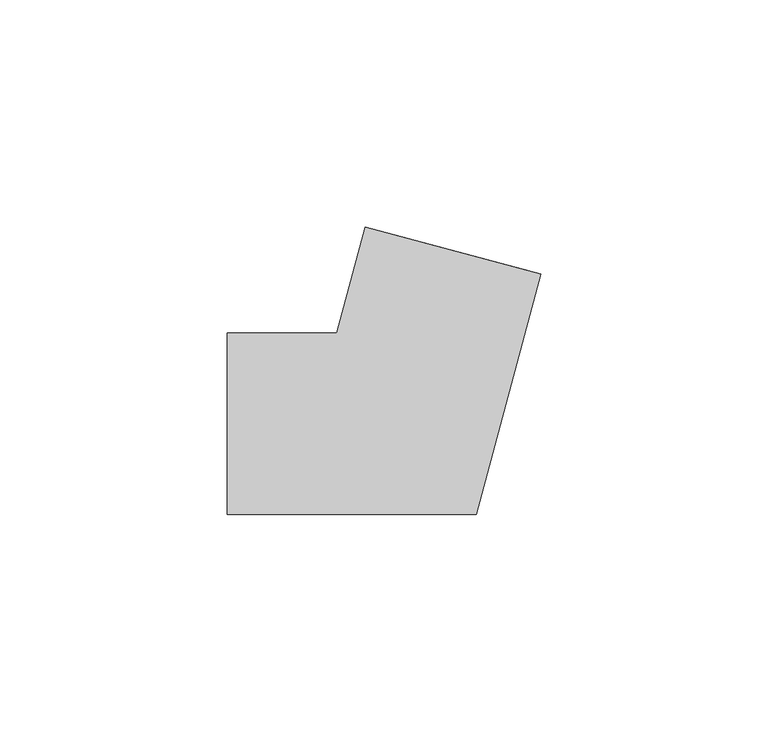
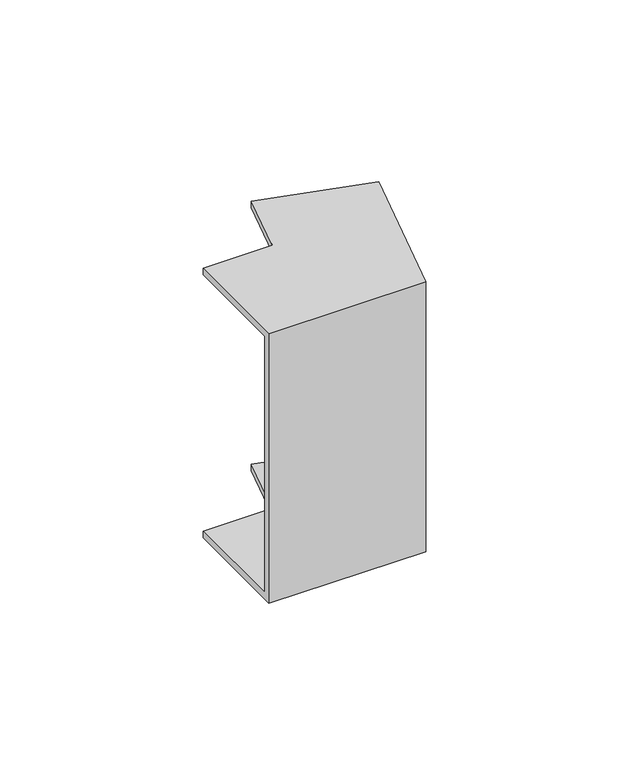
"""IFC4 building model written with IfcOpenShell, lengths in millimetres: cable carrier fitting geometry, КНС_УголВнутренний_ILC_DKC : Угол внутренний_DKC."""

from ifc_helpers import new_model, si_unit, origin, place, context, project, spatial, faceted_brep, source, transform, mapped, element, save


def cable_carrier_fitting_9e77377e(model_context):
    return source(origin(), model_context, "Body", "Brep", [
        faceted_brep([(-39.5297145, -20.0, 50.0), (-39.5297145, 20.0, 50.0), (-39.5297145, 20.0, 47.5), (-39.5297145, -17.5, 47.5), (-39.5297145, -17.5, -47.5), (-39.5297145, 20.0, -47.5), (-39.5297145, 20.0, -50.0), (-39.5297145, -20.0, -50.0), (29.5495595, 33.0063912, 50.0), (29.5495595, 33.0063912, -50.0), (-9.0874736, 43.359153, -50.0), (-9.0874736, 43.359153, -47.5), (27.1347449, 33.6534388, -47.5), (27.1347449, 33.6534388, 47.5), (-9.0874736, 43.359153, 47.5), (-9.0874736, 43.359153, 50.0), (15.3465398, -20.0, 50.0), (-15.3465398, 20.0, 50.0), (-15.3465398, 20.0, 47.5), (13.4282223, -17.5, 47.5), (13.4282223, -17.5, -47.5), (-15.3465398, 20.0, -47.5), (-15.3465398, 20.0, -50.0), (15.3465398, -20.0, -50.0)], [[[0, 1, 2, 3, 4, 5, 6, 7]], [[8, 9, 10, 11, 12, 13, 14, 15]], [[1, 0, 16, 8, 15, 17]], [[2, 1, 17, 18]], [[3, 2, 18, 14, 13, 19]], [[4, 3, 19, 20]], [[5, 4, 20, 12, 11, 21]], [[6, 5, 21, 22]], [[7, 6, 22, 10, 9, 23]], [[0, 7, 23, 16]], [[18, 17, 15, 14]], [[20, 19, 13, 12]], [[22, 21, 11, 10]], [[16, 23, 9, 8]]]),
    ])


if __name__ == "__main__":
    model = new_model("IFC4")
    model_context = context("Model", 3, world=origin())
    ifc_project = project(units=[si_unit("LENGTHUNIT", "METRE", prefix="MILLI")], contexts=[model_context])
    site = spatial("IfcSite", under=ifc_project)
    building = spatial("IfcBuilding", under=site)
    placement = place(None, origin())
    cable_carrier_fitting_shape = cable_carrier_fitting_9e77377e(model_context)
    element("IfcCableCarrierFitting", 1, ObjectType="КНС_УголВнутренний_ILC_DKC : Угол внутренний_DKC", at=placement, inside=building, context=model_context, shape_type="MappedRepresentation", body=[
        mapped(cable_carrier_fitting_shape, transform((0.0, 0.0, 0.0), x_axis=(1.0, 0.0, 0.0), y_axis=(0.0, 1.0, 0.0), z_axis=(0.0, 0.0, 1.0))),
    ])
    save(model, "model.ifc")
